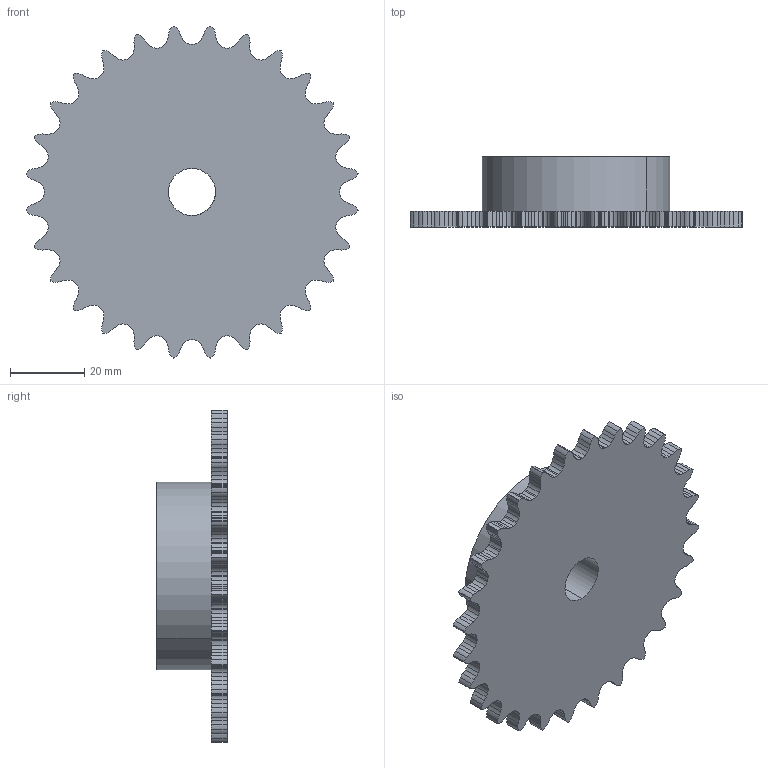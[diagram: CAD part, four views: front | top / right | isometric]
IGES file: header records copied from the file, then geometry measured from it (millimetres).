
Global section: file name: C:\Documents and Settings\Administrator\Desktop\Transfer Temp\rcss-3828.igs; native system: AutoDesk Inventor R2.0 ; preprocessor: AutoDesk Inventor Iges Exporter R2.0; author: No Author specified; organization: No Organization specified; date: 20011229.133059; units: inch
Bounding box: 89.7 x 19.05 x 89.7 mm (x, y, z)
Surface area: 15699.3 mm2 (no closed solid volume)
Topology: 0 solids, 0 shells, 399 faces, 2378 edges, 2378 vertices
Faces by surface type: revolution 340, bspline 59
